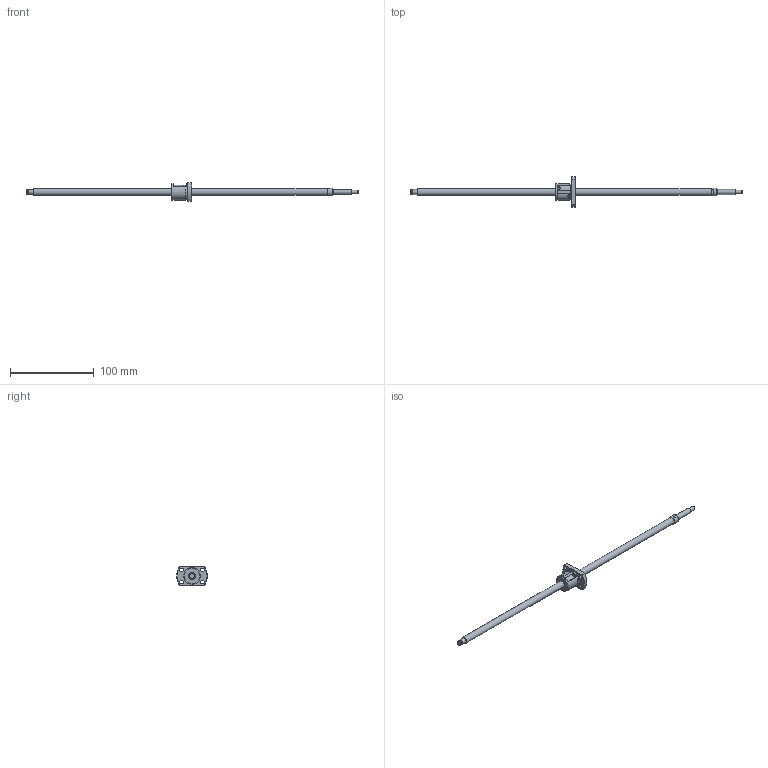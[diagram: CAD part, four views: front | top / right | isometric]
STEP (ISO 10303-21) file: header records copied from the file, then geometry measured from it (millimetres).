
FILE_DESCRIPTION(/* description */ ('STEP AP214'),/* implementation_level */ '2;1');
FILE_NAME(/* name */ 'SRT0802-347R397C7B0X(165Processing)',/* time_stamp */ '2026-08-04T19:58:02+02:00',/* author */ ('License CC BY-ND 4.0'),/* organization */ ('CADENAS'),/* preprocessor_version */ 'ST-DEVELOPER v20',/* originating_system */ 'PARTsolutions',/* authorisation */ ' ');
FILE_SCHEMA (('AUTOMOTIVE_DESIGN {1 0 10303 214 3 1 1}'));
Length unit declared in the file: millimetre
Products named in the file (3): SRT0802-347R397C7B0X(165Processing); SRT0802-347R430BCt7Processing34Shaft; SRT0802Nut
Assembly tree (2 placements, depth 2):
  SRT0802-347R397C7B0X(165Processing)
    SRT0802-347R430BCt7Processing34Shaft
    SRT0802Nut
Bounding box: 397 x 37 x 22 mm (x, y, z)
Volume: 26977.7 mm3; surface area: 13789.1 mm2
Topology: 2 solids, 2 shells, 67 faces, 161 edges, 106 vertices
Faces by surface type: plane 34, cylinder 20, cone 12, torus 1
Full cylindrical faces by diameter (mm): 1 x2, 4.5 x5, 5.7 x1, 6 x3, 8 x2, 9.5 x1, 19.7 x1, 20 x1
Entity records: 1851 total; most frequent: CARTESIAN_POINT 354, DIRECTION 308, ORIENTED_EDGE 246, AXIS2_PLACEMENT_3D 133, EDGE_CURVE 123, EDGE_LOOP 110, FACE_BOUND 110, VERTEX_POINT 93
